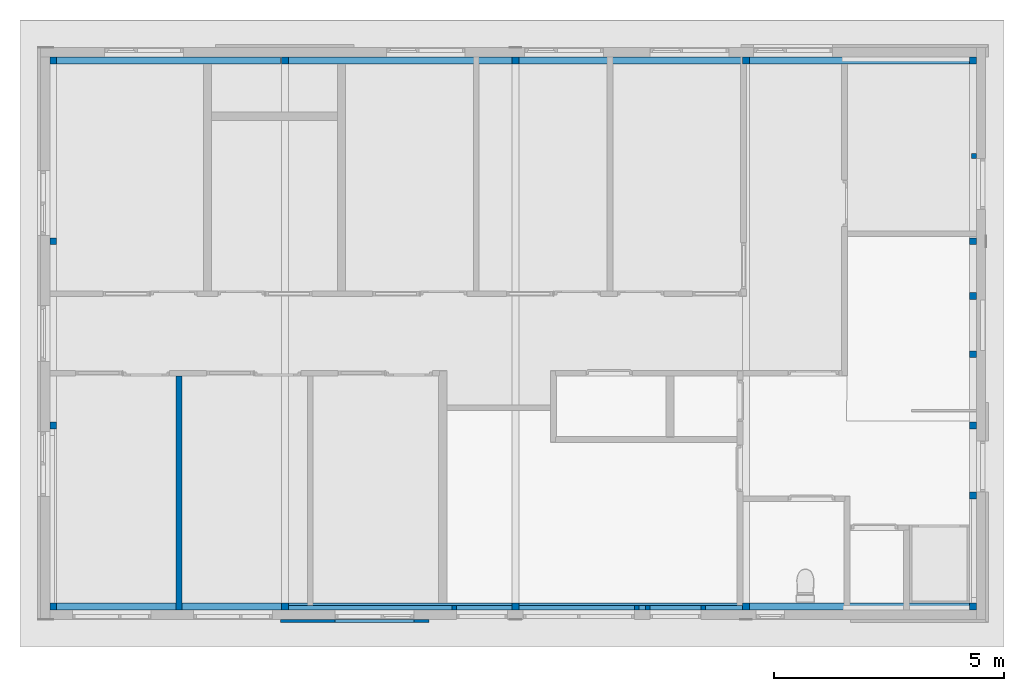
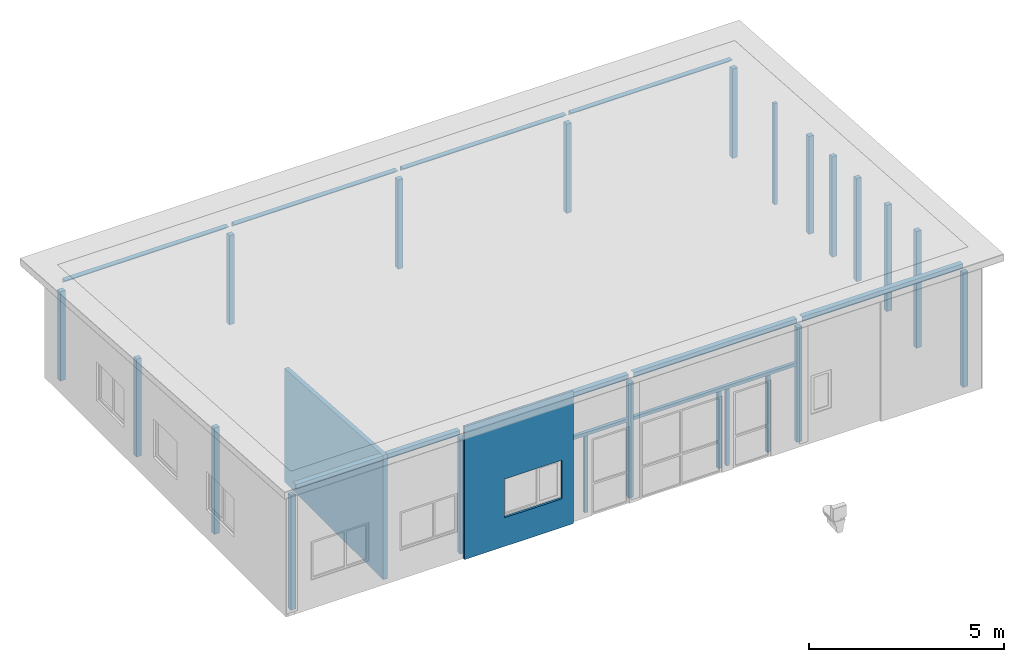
# One storey, part 1 of 37: 22 columns, 10 beams, 2 walls, 1 opening.
"""IFC2X3 building model written with IfcOpenShell, lengths in millimetres."""

from ifc_helpers import new_model, entity, si_unit, converted_unit, frame, frame_2d, origin, origin_with_axes, place, context, subcontext, project, spatial, rectangle, extrude, clip, halfspace, faceted_brep, material, layer, layer_set, layer_usage, element, save


model = new_model("IFC2X3")

# Units and contexts
model_context = context("Model", 3, precision=1e-05, world=origin())
plan_context = context("Plan", 3, precision=1e-05, world=origin())
body_context = subcontext(model_context, "Body", "Model", "MODEL_VIEW")
ifc_project = project(units=[si_unit("LENGTHUNIT", "METRE", prefix="MILLI"), converted_unit("PLANEANGLEUNIT", "DEGREE", entity("IfcPlaneAngleMeasure", 0.0174532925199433), si_unit("PLANEANGLEUNIT", "RADIAN"), dimensions=[0, 0, 0, 0, 0, 0, 0]), si_unit("AREAUNIT", "SQUARE_METRE"), si_unit("VOLUMEUNIT", "CUBIC_METRE")], contexts=[model_context, plan_context])

# Building, storey
building_placement = place(None, origin())
building = spatial("IfcBuilding", under=ifc_project, at=building_placement, Name="HEKF Administrasjonbygg", CompositionType="ELEMENT")
storey_placement = place(building_placement, frame((0.0, 0.0, 9900.0), z_axis=(0.0, 0.0, 1.0), x_axis=(1.0, 0.0, 0.0)))
storey = spatial("IfcBuildingStorey", under=building, at=storey_placement, Name="Plan 2", CompositionType="ELEMENT", Elevation=9900.0)

# Columns
ifc_material_1 = material(Name="Stål")
column_1_placement = place(storey_placement, frame((22580.0, -12000.0, 0.0), z_axis=(0.0, 0.0, 1.0), x_axis=(1.0, 0.0, 0.0)))
element("IfcColumn", 1, at=column_1_placement, inside=storey, material=ifc_material_1, context=body_context, shape_type="SweptSolid", body=[
    extrude(rectangle(XDim=100.0, YDim=100.0, at=frame_2d((50.0, 50.0), x_axis=(1.0, 0.0))), origin_with_axes(), (0.0, 0.0, 1.0), 2410.0),
])
ifc_material_2 = material(Name="Stål")
column_2_placement = place(storey_placement, frame((22820.0, -12000.0, 0.0), z_axis=(0.0, 0.0, 1.0), x_axis=(1.0, 0.0, 0.0)))
element("IfcColumn", 2, at=column_2_placement, inside=storey, material=ifc_material_2, context=body_context, shape_type="SweptSolid", body=[
    extrude(rectangle(XDim=100.0, YDim=100.0, at=frame_2d((50.0, 50.0), x_axis=(1.0, 0.0))), origin_with_axes(), (0.0, 0.0, 1.0), 2410.0),
])
ifc_material_3 = material(Name="Stål")
column_3_placement = place(storey_placement, frame((24030.0, -12000.0, 0.0), z_axis=(0.0, 0.0, 1.0), x_axis=(1.0, 0.0, 0.0)))
element("IfcColumn", 3, at=column_3_placement, inside=storey, material=ifc_material_3, context=body_context, shape_type="SweptSolid", body=[
    extrude(rectangle(XDim=100.0, YDim=100.0, at=frame_2d((50.0, 50.0), x_axis=(1.0, 0.0))), origin_with_axes(), (0.0, 0.0, 1.0), 2410.0),
])
ifc_material_4 = material(Name="Stål")
column_4_placement = place(storey_placement, frame((18620.0, -12000.0, 0.0), z_axis=(0.0, 0.0, 1.0), x_axis=(1.0, 0.0, 0.0)))
element("IfcColumn", 4, at=column_4_placement, inside=storey, material=ifc_material_4, context=body_context, shape_type="SweptSolid", body=[
    extrude(rectangle(XDim=100.0, YDim=100.0, at=frame_2d((50.0, 50.0), x_axis=(1.0, 0.0))), origin_with_axes(), (0.0, 0.0, 1.0), 2410.0),
])
ifc_material_5 = material(Name="Stål")
column_5_placement = place(storey_placement, frame((29850.0, -6526.053432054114, 0.0), z_axis=(0.0, 0.0, 1.0), x_axis=(1.0, 0.0, 0.0)))
element("IfcColumn", 5, at=column_5_placement, inside=storey, material=ifc_material_5, context=body_context, shape_type="Clipping", body=[
    clip(extrude(rectangle(XDim=150.0, YDim=150.0, at=frame_2d((75.0, 75.0), x_axis=(1.0, 0.0))), origin_with_axes(), (0.0, 0.0, 1.0), 3234.404301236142), halfspace(frame((0.0, 0.0, 3234.404301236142), z_axis=(0.0, -0.06651901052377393, -0.9977851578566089), x_axis=(1.0, 0.0, 0.0)), True)),
])
ifc_material_6 = material(Name="Stål")
column_6_placement = place(storey_placement, frame((29850.0, -5266.053432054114, 0.0), z_axis=(0.0, 0.0, 1.0), x_axis=(1.0, 0.0, 0.0)))
element("IfcColumn", 6, at=column_6_placement, inside=storey, material=ifc_material_6, context=body_context, shape_type="Clipping", body=[
    clip(extrude(rectangle(XDim=150.0, YDim=150.0, at=frame_2d((75.0, 75.0), x_axis=(1.0, 0.0))), origin_with_axes(), (0.0, 0.0, 1.0), 3150.404301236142), halfspace(frame((0.0, 0.0, 3150.404301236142), z_axis=(0.0, -0.06651901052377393, -0.9977851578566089), x_axis=(1.0, 0.0, 0.0)), True)),
])
ifc_material_7 = material(Name="Stål")
column_7_placement = place(storey_placement, frame((29900.0, -2200.482789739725, -230.0), z_axis=(0.0, 0.0, 1.0), x_axis=(1.0, 0.0, 0.0)))
element("IfcColumn", 7, at=column_7_placement, inside=storey, material=ifc_material_7, context=body_context, shape_type="Clipping", body=[
    clip(extrude(rectangle(XDim=100.0, YDim=100.0, at=frame_2d((50.0, 50.0), x_axis=(1.0, 0.0))), origin_with_axes(), (0.0, 0.0, 1.0), 3176.03292508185), halfspace(frame((0.0, 0.0, 3176.03292508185), z_axis=(0.0, -0.06651901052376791, -0.9977851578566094), x_axis=(1.0, 0.0, 0.0)), True)),
])
ifc_material_8 = material(Name="Stål")
column_8_placement = place(storey_placement, frame((9899.999999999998, -150.0, 0.0), z_axis=(0.0, 0.0, 1.0), x_axis=(1.0, 0.0, 0.0)))
element("IfcColumn", 8, at=column_8_placement, inside=storey, material=ifc_material_8, context=body_context, shape_type="Clipping", body=[
    clip(extrude(rectangle(XDim=150.0, YDim=150.0, at=frame_2d((75.0, 75.0), x_axis=(1.0, 0.0))), origin_with_axes(), (0.0, 0.0, 1.0), 2809.334072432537), halfspace(frame((0.0, 0.0, 2809.334072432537), z_axis=(0.0, -0.06651901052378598, -0.9977851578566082), x_axis=(1.0, 0.0, 0.0)), True)),
])
ifc_material_9 = material(Name="Stål")
column_9_placement = place(storey_placement, frame((14925.0, -150.0, 0.0), z_axis=(0.0, 0.0, 1.0), x_axis=(1.0, 0.0, 0.0)))
element("IfcColumn", 9, at=column_9_placement, inside=storey, material=ifc_material_9, context=body_context, shape_type="SweptSolid", body=[
    extrude(rectangle(XDim=150.0, YDim=150.0, at=frame_2d((75.0, 75.0), x_axis=(1.0, 0.0))), origin_with_axes(), (0.0, 0.0, 1.0), 2800.0),
])
ifc_material_10 = material(Name="Stål")
column_10_placement = place(storey_placement, frame((19925.0, -149.9999999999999, 0.0), z_axis=(0.0, 0.0, 1.0), x_axis=(1.0, 0.0, 0.0)))
element("IfcColumn", 10, at=column_10_placement, inside=storey, material=ifc_material_10, context=body_context, shape_type="SweptSolid", body=[
    extrude(rectangle(XDim=150.0, YDim=150.0, at=frame_2d((75.0, 75.0), x_axis=(1.0, 0.0))), origin_with_axes(), (0.0, 0.0, 1.0), 2800.0),
])
ifc_material_11 = material(Name="Stål")
column_11_placement = place(storey_placement, frame((24925.0, -149.9999999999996, 0.0), z_axis=(0.0, 0.0, 1.0), x_axis=(1.0, 0.0, 0.0)))
element("IfcColumn", 11, at=column_11_placement, inside=storey, material=ifc_material_11, context=body_context, shape_type="SweptSolid", body=[
    extrude(rectangle(XDim=150.0, YDim=150.0, at=frame_2d((75.0, 75.0), x_axis=(1.0, 0.0))), origin_with_axes(), (0.0, 0.0, 1.0), 2800.0),
])
ifc_material_12 = material(Name="Stål")
column_12_placement = place(storey_placement, frame((29850.0, -150.0, 0.0), z_axis=(0.0, 0.0, 1.0), x_axis=(1.0, 0.0, 0.0)))
element("IfcColumn", 12, at=column_12_placement, inside=storey, material=ifc_material_12, context=body_context, shape_type="Clipping", body=[
    clip(extrude(rectangle(XDim=150.0, YDim=150.0, at=frame_2d((75.0, 75.0), x_axis=(1.0, 0.0))), origin_with_axes(), (0.0, 0.0, 1.0), 2809.334072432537), halfspace(frame((0.0, 0.0, 2809.334072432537), z_axis=(0.0, -0.06651901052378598, -0.9977851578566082), x_axis=(1.0, 0.0, 0.0)), True)),
])
ifc_material_13 = material(Name="Stål")
column_13_placement = place(storey_placement, frame((29850.0, -4075.000000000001, 0.0), z_axis=(0.0, 0.0, 1.0), x_axis=(1.0, 0.0, 0.0)))
element("IfcColumn", 13, at=column_13_placement, inside=storey, material=ifc_material_13, context=body_context, shape_type="Clipping", body=[
    clip(extrude(rectangle(XDim=150.0, YDim=150.0, at=frame_2d((75.0, 75.0), x_axis=(1.0, 0.0))), origin_with_axes(), (0.0, 0.0, 1.0), 3071.000739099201), halfspace(frame((0.0, 0.0, 3071.000739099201), z_axis=(0.0, -0.06651901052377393, -0.9977851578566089), x_axis=(1.0, 0.0, 0.0)), True)),
])
ifc_material_14 = material(Name="Stål")
column_14_placement = place(storey_placement, frame((29850.0, -8075.000000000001, 0.0), z_axis=(0.0, 0.0, 1.0), x_axis=(1.0, 0.0, 0.0)))
element("IfcColumn", 14, at=column_14_placement, inside=storey, material=ifc_material_14, context=body_context, shape_type="Clipping", body=[
    clip(extrude(rectangle(XDim=150.0, YDim=150.0, at=frame_2d((75.0, 75.0), x_axis=(1.0, 0.0))), origin_with_axes(), (0.0, 0.0, 1.0), 3337.667405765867), halfspace(frame((0.0, 0.0, 3337.667405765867), z_axis=(0.0, -0.06651901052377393, -0.9977851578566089), x_axis=(1.0, 0.0, 0.0)), True)),
])
ifc_material_15 = material(Name="Stål")
column_15_placement = place(storey_placement, frame((29850.0, -9591.624074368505, -230.0), z_axis=(0.0, 0.0, 1.0), x_axis=(1.0, 0.0, 0.0)))
element("IfcColumn", 15, at=column_15_placement, inside=storey, material=ifc_material_15, context=body_context, shape_type="Clipping", body=[
    clip(extrude(rectangle(XDim=150.0, YDim=150.0, at=frame_2d((75.0, 75.0), x_axis=(1.0, 0.0))), origin_with_axes(), (0.0, 0.0, 1.0), 3668.775677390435), halfspace(frame((0.0, 0.0, 3668.775677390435), z_axis=(0.0, -0.06651901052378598, -0.9977851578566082), x_axis=(1.0, 0.0, 0.0)), True)),
])
ifc_material_16 = material(Name="Stål")
column_16_placement = place(storey_placement, frame((29850.0, -12000.0, 0.0), z_axis=(0.0, 0.0, 1.0), x_axis=(1.0, 0.0, 0.0)))
element("IfcColumn", 16, at=column_16_placement, inside=storey, material=ifc_material_16, context=body_context, shape_type="Clipping", body=[
    clip(extrude(rectangle(XDim=150.0, YDim=150.0, at=frame_2d((75.0, 75.0), x_axis=(1.0, 0.0))), origin_with_axes(), (0.0, 0.0, 1.0), 3599.334072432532), halfspace(frame((0.0, 0.0, 3599.334072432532), z_axis=(0.0, -0.06651901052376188, -0.9977851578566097), x_axis=(1.0, 0.0, 0.0)), True)),
])
ifc_material_17 = material(Name="Stål")
column_17_placement = place(storey_placement, frame((24925.0, -11999.99999999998, 0.0), z_axis=(0.0, 0.0, 1.0), x_axis=(1.0, 0.0, 0.0)))
element("IfcColumn", 17, at=column_17_placement, inside=storey, material=ifc_material_17, context=body_context, shape_type="SweptSolid", body=[
    extrude(rectangle(XDim=150.0, YDim=150.0, at=frame_2d((75.0, 75.0), x_axis=(1.0, 0.0))), origin_with_axes(), (0.0, 0.0, 1.0), 3600.0),
])
ifc_material_18 = material(Name="Stål")
column_18_placement = place(storey_placement, frame((19925.0, -11999.99999999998, 0.0), z_axis=(0.0, 0.0, 1.0), x_axis=(1.0, 0.0, 0.0)))
element("IfcColumn", 18, at=column_18_placement, inside=storey, material=ifc_material_18, context=body_context, shape_type="SweptSolid", body=[
    extrude(rectangle(XDim=150.0, YDim=150.0, at=frame_2d((75.0, 75.0), x_axis=(1.0, 0.0))), origin_with_axes(), (0.0, 0.0, 1.0), 3600.0),
])
ifc_material_19 = material(Name="Stål")
column_19_placement = place(storey_placement, frame((14925.0, -11999.99999999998, 0.0), z_axis=(0.0, 0.0, 1.0), x_axis=(1.0, 0.0, 0.0)))
element("IfcColumn", 19, at=column_19_placement, inside=storey, material=ifc_material_19, context=body_context, shape_type="SweptSolid", body=[
    extrude(rectangle(XDim=150.0, YDim=150.0, at=frame_2d((75.0, 75.0), x_axis=(1.0, 0.0))), origin_with_axes(), (0.0, 0.0, 1.0), 3600.0),
])
ifc_material_20 = material(Name="Stål")
column_20_placement = place(storey_placement, frame((9899.999999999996, -11999.99999999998, 0.0), z_axis=(0.0, 0.0, 1.0), x_axis=(1.0, 0.0, 0.0)))
element("IfcColumn", 20, at=column_20_placement, inside=storey, material=ifc_material_20, context=body_context, shape_type="Clipping", body=[
    clip(extrude(rectangle(XDim=150.0, YDim=150.0, at=frame_2d((75.0, 75.0), x_axis=(1.0, 0.0))), origin_with_axes(), (0.0, 0.0, 1.0), 3599.334072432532), halfspace(frame((0.0, 0.0, 3599.334072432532), z_axis=(0.0, -0.06651901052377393, -0.9977851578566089), x_axis=(1.0, 0.0, 0.0)), True)),
])
ifc_material_21 = material(Name="Stål")
column_21_placement = place(storey_placement, frame((9899.999999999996, -8075.000000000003, 0.0), z_axis=(0.0, 0.0, 1.0), x_axis=(1.0, 0.0, 0.0)))
element("IfcColumn", 21, at=column_21_placement, inside=storey, material=ifc_material_21, context=body_context, shape_type="Clipping", body=[
    clip(extrude(rectangle(XDim=150.0, YDim=150.0, at=frame_2d((75.0, 75.0), x_axis=(1.0, 0.0))), origin_with_axes(), (0.0, 0.0, 1.0), 3337.667405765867), halfspace(frame((0.0, 0.0, 3337.667405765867), z_axis=(0.0, -0.06651901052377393, -0.9977851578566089), x_axis=(1.0, 0.0, 0.0)), True)),
])
ifc_material_22 = material(Name="Stål")
column_22_placement = place(storey_placement, frame((9899.999999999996, -4075.000000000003, 0.0), z_axis=(0.0, 0.0, 1.0), x_axis=(1.0, 0.0, 0.0)))
element("IfcColumn", 22, at=column_22_placement, inside=storey, material=ifc_material_22, context=body_context, shape_type="Clipping", body=[
    clip(extrude(rectangle(XDim=150.0, YDim=150.0, at=frame_2d((75.0, 75.0), x_axis=(1.0, 0.0))), origin_with_axes(), (0.0, 0.0, 1.0), 3071.000739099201), halfspace(frame((0.0, 0.0, 3071.000739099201), z_axis=(0.0, -0.06651901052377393, -0.9977851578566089), x_axis=(1.0, 0.0, 0.0)), True)),
])

# Beams
ifc_material_23 = material(Name="Betong i drager")
beam_1_placement = place(storey_placement, frame((20075.0, -11999.99999999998, 3739.667036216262), z_axis=(0.0, 0.0, 1.0), x_axis=(1.0, 0.0, 0.0)))
element("IfcBeam", 23, at=beam_1_placement, inside=storey, material=ifc_material_23, context=body_context, shape_type="Brep", body=[
    faceted_brep([(4850.0, 0.0, 150.3329637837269), (4850.0, 0.0, 10.0), (0.0, 0.0, 10.0), (0.0, 0.0, 150.3329637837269), (4850.0, 150.0, 150.3329637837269), (4850.0, 150.0, 139.1063266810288), (4850.0, 12.0, 139.1063266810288), (4850.0, 12.0, 10.0), (4850.0, 0.0, 10.0), (4850.0, 0.0, 150.3329637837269), (0.0, 150.0, 150.3329637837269), (-3.637978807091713e-12, 150.0000000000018, 139.1063266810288), (4850.0, 150.0, 139.1063266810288), (4850.0, 150.0, 150.3329637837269), (0.0, 0.0, 150.3329637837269), (0.0, 0.0, 10.0), (0.0, 12.0, 10.0), (0.0, 12.0, 139.1063266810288), (-3.637978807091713e-12, 150.0000000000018, 139.1063266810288), (0.0, 150.0, 150.3329637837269), (4850.0, 150.0, 150.3329637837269), (4850.0, 0.0, 150.3329637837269), (0.0, 0.0, 150.3329637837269), (0.0, 150.0, 150.3329637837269), (4850.0, 0.0, 10.0), (4850.0, 12.0, 10.0), (0.0, 12.0, 10.0), (0.0, 0.0, 10.0), (4850.0, 12.0, 10.0), (4850.0, 12.0, 139.1063266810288), (0.0, 12.0, 139.1063266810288), (0.0, 12.0, 10.0), (4850.0, 12.0, 139.1063266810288), (4850.0, 150.0, 139.1063266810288), (-3.637978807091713e-12, 150.0000000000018, 139.1063266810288), (0.0, 12.0, 139.1063266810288)], [[[0, 1, 2, 3]], [[4, 5, 6, 7, 8, 9]], [[10, 11, 12, 13]], [[14, 15, 16, 17, 18, 19]], [[20, 21, 22, 23]], [[24, 25, 26, 27]], [[28, 29, 30, 31]], [[32, 33, 34, 35]]], orient=[[False], [False], [False], [False], [False], [False], [False], [False]]),
])
ifc_material_24 = material(Name="Betong i drager")
beam_2_placement = place(storey_placement, frame((15075.00000000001, -11999.99999999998, 3739.667036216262), z_axis=(0.0, 0.0, 1.0), x_axis=(1.0, 0.0, 0.0)))
element("IfcBeam", 24, at=beam_2_placement, inside=storey, material=ifc_material_24, context=body_context, shape_type="Brep", body=[
    faceted_brep([(4849.999999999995, 0.0, 150.3329637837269), (4849.999999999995, 0.0, 10.0), (0.0, 0.0, 10.0), (0.0, 0.0, 150.3329637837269), (4849.999999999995, 150.0, 150.3329637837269), (4849.999999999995, 150.0, 139.1063266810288), (4849.999999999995, 12.0, 139.1063266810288), (4849.999999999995, 12.0, 10.0), (4849.999999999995, 0.0, 10.0), (4849.999999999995, 0.0, 150.3329637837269), (0.0, 150.0, 150.3329637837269), (0.0, 150.0000000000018, 139.1063266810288), (4849.999999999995, 150.0, 139.1063266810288), (4849.999999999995, 150.0, 150.3329637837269), (0.0, 0.0, 150.3329637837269), (0.0, 0.0, 10.0), (0.0, 12.0, 10.0), (0.0, 12.0, 139.1063266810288), (0.0, 150.0000000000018, 139.1063266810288), (0.0, 150.0, 150.3329637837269), (4849.999999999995, 150.0, 150.3329637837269), (4849.999999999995, 0.0, 150.3329637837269), (0.0, 0.0, 150.3329637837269), (0.0, 150.0, 150.3329637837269), (4849.999999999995, 0.0, 10.0), (4849.999999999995, 12.0, 10.0), (0.0, 12.0, 10.0), (0.0, 0.0, 10.0), (4849.999999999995, 12.0, 10.0), (4849.999999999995, 12.0, 139.1063266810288), (0.0, 12.0, 139.1063266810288), (0.0, 12.0, 10.0), (4849.999999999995, 12.0, 139.1063266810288), (4849.999999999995, 150.0, 139.1063266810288), (0.0, 150.0000000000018, 139.1063266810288), (0.0, 12.0, 139.1063266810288)], [[[0, 1, 2, 3]], [[4, 5, 6, 7, 8, 9]], [[10, 11, 12, 13]], [[14, 15, 16, 17, 18, 19]], [[20, 21, 22, 23]], [[24, 25, 26, 27]], [[28, 29, 30, 31]], [[32, 33, 34, 35]]], orient=[[False], [False], [False], [False], [False], [False], [False], [False]]),
])
ifc_material_25 = material(Name="Betong i drager")
beam_3_placement = place(storey_placement, frame((10050.0, -11999.99999999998, 3739.667036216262), z_axis=(0.0, 0.0, 1.0), x_axis=(1.0, 0.0, 0.0)))
element("IfcBeam", 25, at=beam_3_placement, inside=storey, material=ifc_material_25, context=body_context, shape_type="Brep", body=[
    faceted_brep([(4875.000000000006, 0.0, 150.3329637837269), (4875.000000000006, 0.0, 10.0), (0.0, 0.0, 10.0), (0.0, 0.0, 150.3329637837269), (4875.000000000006, 150.0, 150.3329637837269), (4875.000000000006, 150.0, 139.1063266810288), (4875.000000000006, 12.0, 139.1063266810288), (4875.000000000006, 12.0, 10.0), (4875.000000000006, 0.0, 10.0), (4875.000000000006, 0.0, 150.3329637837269), (0.0, 150.0, 150.3329637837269), (0.0, 150.0000000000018, 139.1063266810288), (4875.000000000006, 150.0, 139.1063266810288), (4875.000000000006, 150.0, 150.3329637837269), (0.0, 0.0, 150.3329637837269), (0.0, 0.0, 10.0), (0.0, 12.0, 10.0), (0.0, 12.0, 139.1063266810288), (0.0, 150.0000000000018, 139.1063266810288), (0.0, 150.0, 150.3329637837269), (4875.000000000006, 150.0, 150.3329637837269), (4875.000000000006, 0.0, 150.3329637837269), (0.0, 0.0, 150.3329637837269), (0.0, 150.0, 150.3329637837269), (4875.000000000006, 0.0, 10.0), (4875.000000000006, 12.0, 10.0), (0.0, 12.0, 10.0), (0.0, 0.0, 10.0), (4875.000000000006, 12.0, 10.0), (4875.000000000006, 12.0, 139.1063266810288), (0.0, 12.0, 139.1063266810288), (0.0, 12.0, 10.0), (4875.000000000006, 12.0, 139.1063266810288), (4875.000000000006, 150.0, 139.1063266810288), (0.0, 150.0000000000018, 139.1063266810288), (0.0, 12.0, 139.1063266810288)], [[[0, 1, 2, 3]], [[4, 5, 6, 7, 8, 9]], [[10, 11, 12, 13]], [[14, 15, 16, 17, 18, 19]], [[20, 21, 22, 23]], [[24, 25, 26, 27]], [[28, 29, 30, 31]], [[32, 33, 34, 35]]], orient=[[False], [False], [False], [False], [False], [False], [False], [False]]),
])
ifc_material_26 = material(Name="Betong i drager")
beam_4_placement = place(storey_placement, frame((14900.0, 3.552713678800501e-13, 2949.667036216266), z_axis=(0.0, 0.0, 1.0), x_axis=(-1.0, -2.553512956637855e-17, 0.0)))
element("IfcBeam", 26, at=beam_4_placement, inside=storey, material=ifc_material_26, context=body_context, shape_type="Brep", body=[
    faceted_brep([(4850.000000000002, 0.0, 150.3329637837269), (4850.000000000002, 0.0, 10.0), (0.0, 0.0, 10.0), (0.0, 0.0, 150.3329637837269), (4850.000000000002, 150.0, 150.3329637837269), (4850.000000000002, 150.0, 139.106326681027), (4850.000000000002, 12.0, 139.1063266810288), (4850.000000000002, 12.00000000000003, 10.0), (4850.000000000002, 0.0, 10.0), (4850.000000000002, 0.0, 150.3329637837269), (0.0, 150.0, 150.3329637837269), (0.0, 150.0, 139.1063266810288), (4850.000000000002, 150.0, 139.106326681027), (4850.000000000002, 150.0, 150.3329637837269), (0.0, 0.0, 150.3329637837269), (0.0, 0.0, 10.0), (-1.818989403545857e-12, 12.00000000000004, 10.0), (-1.818989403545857e-12, 12.00000000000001, 139.1063266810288), (0.0, 150.0, 139.1063266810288), (0.0, 150.0, 150.3329637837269), (4850.000000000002, 150.0, 150.3329637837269), (4850.000000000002, 0.0, 150.3329637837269), (0.0, 0.0, 150.3329637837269), (0.0, 150.0, 150.3329637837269), (4850.000000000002, 0.0, 10.0), (4850.000000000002, 12.00000000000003, 10.0), (-1.818989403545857e-12, 12.00000000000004, 10.0), (0.0, 0.0, 10.0), (4850.000000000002, 12.00000000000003, 10.0), (4850.000000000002, 12.0, 139.1063266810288), (-1.818989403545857e-12, 12.00000000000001, 139.1063266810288), (-1.818989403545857e-12, 12.00000000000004, 10.0), (4850.000000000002, 12.0, 139.1063266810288), (4850.000000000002, 150.0, 139.106326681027), (0.0, 150.0, 139.1063266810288), (-1.818989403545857e-12, 12.00000000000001, 139.1063266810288)], [[[0, 1, 2, 3]], [[4, 5, 6, 7, 8, 9]], [[10, 11, 12, 13]], [[14, 15, 16, 17, 18, 19]], [[20, 21, 22, 23]], [[24, 25, 26, 27]], [[28, 29, 30, 31]], [[32, 33, 34, 35]]], orient=[[False], [False], [False], [False], [False], [False], [False], [False]]),
])
ifc_material_27 = material(Name="Betong i drager")
beam_5_placement = place(storey_placement, frame((19925.0, 9.947598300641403e-14, 2949.667036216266), z_axis=(0.0, 0.0, 1.0), x_axis=(-1.0, -2.051051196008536e-17, 0.0)))
element("IfcBeam", 27, at=beam_5_placement, inside=storey, material=ifc_material_27, context=body_context, shape_type="Brep", body=[
    faceted_brep([(4850.000000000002, 0.0, 150.3329637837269), (4850.000000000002, 0.0, 10.0), (0.0, 0.0, 10.0), (0.0, 0.0, 150.3329637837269), (4850.000000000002, 150.0, 150.3329637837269), (4850.000000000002, 150.0, 139.106326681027), (4850.000000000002, 12.0, 139.1063266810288), (4850.000000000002, 12.00000000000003, 10.0), (4850.000000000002, 0.0, 10.0), (4850.000000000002, 0.0, 150.3329637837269), (0.0, 150.0, 150.3329637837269), (0.0, 150.0, 139.1063266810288), (4850.000000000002, 150.0, 139.106326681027), (4850.000000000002, 150.0, 150.3329637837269), (0.0, 0.0, 150.3329637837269), (0.0, 0.0, 10.0), (0.0, 12.00000000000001, 10.0), (0.0, 11.99999999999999, 139.1063266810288), (0.0, 150.0, 139.1063266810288), (0.0, 150.0, 150.3329637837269), (4850.000000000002, 150.0, 150.3329637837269), (4850.000000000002, 0.0, 150.3329637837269), (0.0, 0.0, 150.3329637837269), (0.0, 150.0, 150.3329637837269), (4850.000000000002, 0.0, 10.0), (4850.000000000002, 12.00000000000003, 10.0), (0.0, 12.00000000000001, 10.0), (0.0, 0.0, 10.0), (4850.000000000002, 12.00000000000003, 10.0), (4850.000000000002, 12.0, 139.1063266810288), (0.0, 11.99999999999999, 139.1063266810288), (0.0, 12.00000000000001, 10.0), (4850.000000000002, 12.0, 139.1063266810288), (4850.000000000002, 150.0, 139.106326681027), (0.0, 150.0, 139.1063266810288), (0.0, 11.99999999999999, 139.1063266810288)], [[[0, 1, 2, 3]], [[4, 5, 6, 7, 8, 9]], [[10, 11, 12, 13]], [[14, 15, 16, 17, 18, 19]], [[20, 21, 22, 23]], [[24, 25, 26, 27]], [[28, 29, 30, 31]], [[32, 33, 34, 35]]], orient=[[False], [False], [False], [False], [False], [False], [False], [False]]),
])
ifc_material_28 = material(Name="Betong i drager")
beam_6_placement = place(storey_placement, frame((24925.0, 4.547473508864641e-13, 2949.667036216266), z_axis=(0.0, 0.0, 1.0), x_axis=(-1.0, 0.0, 0.0)))
element("IfcBeam", 28, at=beam_6_placement, inside=storey, material=ifc_material_28, context=body_context, shape_type="Brep", body=[
    faceted_brep([(4850.0, 0.0, 150.3329637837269), (4850.0, 0.0, 10.0), (0.0, 0.0, 10.0), (0.0, 0.0, 150.3329637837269), (4850.0, 150.0, 150.3329637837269), (4850.000000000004, 150.0, 139.106326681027), (4850.0, 12.0, 139.1063266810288), (4850.0, 12.00000000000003, 10.0), (4850.0, 0.0, 10.0), (4850.0, 0.0, 150.3329637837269), (0.0, 150.0, 150.3329637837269), (0.0, 150.0, 139.1063266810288), (4850.000000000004, 150.0, 139.106326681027), (4850.0, 150.0, 150.3329637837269), (0.0, 0.0, 150.3329637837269), (0.0, 0.0, 10.0), (0.0, 12.00000000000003, 10.0), (0.0, 12.0, 139.1063266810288), (0.0, 150.0, 139.1063266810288), (0.0, 150.0, 150.3329637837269), (4850.0, 150.0, 150.3329637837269), (4850.0, 0.0, 150.3329637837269), (0.0, 0.0, 150.3329637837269), (0.0, 150.0, 150.3329637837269), (4850.0, 0.0, 10.0), (4850.0, 12.00000000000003, 10.0), (0.0, 12.00000000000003, 10.0), (0.0, 0.0, 10.0), (4850.0, 12.00000000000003, 10.0), (4850.0, 12.0, 139.1063266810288), (0.0, 12.0, 139.1063266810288), (0.0, 12.00000000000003, 10.0), (4850.0, 12.0, 139.1063266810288), (4850.000000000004, 150.0, 139.106326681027), (0.0, 150.0, 139.1063266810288), (0.0, 12.0, 139.1063266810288)], [[[0, 1, 2, 3]], [[4, 5, 6, 7, 8, 9]], [[10, 11, 12, 13]], [[14, 15, 16, 17, 18, 19]], [[20, 21, 22, 23]], [[24, 25, 26, 27]], [[28, 29, 30, 31]], [[32, 33, 34, 35]]], orient=[[False], [False], [False], [False], [False], [False], [False], [False]]),
])
ifc_material_29 = material(Name="Betong i drager")
beam_7_placement = place(storey_placement, frame((29850.0, -4.547473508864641e-13, 2949.667036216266), z_axis=(0.0, 0.0, 1.0), x_axis=(-1.0, 9.523504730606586e-17, 0.0)))
element("IfcBeam", 29, at=beam_7_placement, inside=storey, material=ifc_material_29, context=body_context, shape_type="Brep", body=[
    faceted_brep([(4774.999999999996, 0.0, 150.3329637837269), (4774.999999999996, 0.0, 10.0), (0.0, 0.0, 10.0), (0.0, 0.0, 150.3329637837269), (4774.999999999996, 150.0, 150.3329637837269), (4775.0, 150.0, 139.106326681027), (4774.999999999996, 12.0, 139.1063266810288), (4774.999999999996, 12.00000000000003, 10.0), (4774.999999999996, 0.0, 10.0), (4774.999999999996, 0.0, 150.3329637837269), (0.0, 150.0, 150.3329637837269), (0.0, 150.0, 139.1063266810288), (4775.0, 150.0, 139.106326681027), (4774.999999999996, 150.0, 150.3329637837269), (0.0, 0.0, 150.3329637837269), (0.0, 0.0, 10.0), (0.0, 12.00000000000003, 10.0), (0.0, 12.0, 139.1063266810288), (0.0, 150.0, 139.1063266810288), (0.0, 150.0, 150.3329637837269), (4774.999999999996, 150.0, 150.3329637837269), (4774.999999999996, 0.0, 150.3329637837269), (0.0, 0.0, 150.3329637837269), (0.0, 150.0, 150.3329637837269), (4774.999999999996, 0.0, 10.0), (4774.999999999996, 12.00000000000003, 10.0), (0.0, 12.00000000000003, 10.0), (0.0, 0.0, 10.0), (4774.999999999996, 12.00000000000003, 10.0), (4774.999999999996, 12.0, 139.1063266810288), (0.0, 12.0, 139.1063266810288), (0.0, 12.00000000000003, 10.0), (4774.999999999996, 12.0, 139.1063266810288), (4775.0, 150.0, 139.106326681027), (0.0, 150.0, 139.1063266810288), (0.0, 12.0, 139.1063266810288)], [[[0, 1, 2, 3]], [[4, 5, 6, 7, 8, 9]], [[10, 11, 12, 13]], [[14, 15, 16, 17, 18, 19]], [[20, 21, 22, 23]], [[24, 25, 26, 27]], [[28, 29, 30, 31]], [[32, 33, 34, 35]]], orient=[[False], [False], [False], [False], [False], [False], [False], [False]]),
])
ifc_material_30 = material(Name="Betong i drager")
beam_8_placement = place(storey_placement, frame((25075.0, -12000.0, 3739.667036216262), z_axis=(0.0, 0.0, 1.0), x_axis=(1.0, 0.0, 0.0)))
element("IfcBeam", 30, at=beam_8_placement, inside=storey, material=ifc_material_30, context=body_context, shape_type="Brep", body=[
    faceted_brep([(4775.0, 0.0, 150.3329637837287), (4775.0, 0.0, 10.00000000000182), (0.0, 0.0, 10.00000000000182), (0.0, 0.0, 150.3329637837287), (4775.0, 150.0, 150.3329637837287), (4775.0, 150.0, 139.1063266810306), (4775.0, 12.0, 139.1063266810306), (4775.0, 12.0, 10.00000000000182), (4775.0, 0.0, 10.00000000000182), (4775.0, 0.0, 150.3329637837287), (0.0, 150.0, 150.3329637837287), (-3.637978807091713e-12, 150.0000000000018, 139.1063266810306), (4775.0, 150.0, 139.1063266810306), (4775.0, 150.0, 150.3329637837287), (0.0, 0.0, 150.3329637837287), (0.0, 0.0, 10.00000000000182), (0.0, 12.0, 10.00000000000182), (0.0, 12.0, 139.1063266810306), (-3.637978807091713e-12, 150.0000000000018, 139.1063266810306), (0.0, 150.0, 150.3329637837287), (4775.0, 150.0, 150.3329637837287), (4775.0, 0.0, 150.3329637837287), (0.0, 0.0, 150.3329637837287), (0.0, 150.0, 150.3329637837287), (4775.0, 0.0, 10.00000000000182), (4775.0, 12.0, 10.00000000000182), (0.0, 12.0, 10.00000000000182), (0.0, 0.0, 10.00000000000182), (4775.0, 12.0, 10.00000000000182), (4775.0, 12.0, 139.1063266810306), (0.0, 12.0, 139.1063266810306), (0.0, 12.0, 10.00000000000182), (4775.0, 12.0, 139.1063266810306), (4775.0, 150.0, 139.1063266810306), (-3.637978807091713e-12, 150.0000000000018, 139.1063266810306), (0.0, 12.0, 139.1063266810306)], [[[0, 1, 2, 3]], [[4, 5, 6, 7, 8, 9]], [[10, 11, 12, 13]], [[14, 15, 16, 17, 18, 19]], [[20, 21, 22, 23]], [[24, 25, 26, 27]], [[28, 29, 30, 31]], [[32, 33, 34, 35]]], orient=[[False], [False], [False], [False], [False], [False], [False], [False]]),
])
ifc_material_31 = material(Name="Betong i drager")
beam_9_placement = place(storey_placement, frame((20075.0, -11999.99999999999, 2410.0), z_axis=(0.0, 0.0, 1.0), x_axis=(1.0, 0.0, 0.0)))
element("IfcBeam", 31, at=beam_9_placement, inside=storey, material=ifc_material_31, context=body_context, shape_type="SweptSolid", body=[
    extrude(rectangle(XDim=100.0, YDim=100.0, at=frame_2d((50.0, -50.0), x_axis=(1.0, 0.0))), frame((0.0, 0.0, 0.0), z_axis=(1.0, 0.0, 0.0), x_axis=(0.0, 0.0, 1.0)), (0.0, 0.0, 1.0), 4850.0),
])
ifc_material_32 = material(Name="Betong i drager")
beam_10_placement = place(storey_placement, frame((15075.0, -11999.99999999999, 2410.0), z_axis=(0.0, 0.0, 1.0), x_axis=(1.0, 0.0, 0.0)))
element("IfcBeam", 32, at=beam_10_placement, inside=storey, material=ifc_material_32, context=body_context, shape_type="SweptSolid", body=[
    extrude(rectangle(XDim=100.0, YDim=100.0, at=frame_2d((50.0, -50.0), x_axis=(1.0, 0.0))), frame((0.0, 0.0, 0.0), z_axis=(1.0, 0.0, 0.0), x_axis=(0.0, 0.0, 1.0)), (0.0, 0.0, 1.0), 4850.0),
])

# Wall, opening
ifc_material_33 = material(Name="Lekter")
ifc_layer_1 = layer(ifc_material_33, 46.0)
ifc_material_34 = material(Name="Kledning")
ifc_layer_2 = layer(ifc_material_34, 19.0)
ifc_layer_set_1 = layer_set([ifc_layer_1, ifc_layer_2])
ifc_layer_usage_1 = layer_usage(ifc_layer_set_1, "AXIS2", "POSITIVE", 0.0)
wall_1_placement = place(storey_placement, frame((18130.0, -12200.0, 0.0), z_axis=(0.0, 0.0, 1.0), x_axis=(-1.0, 0.0, 0.0)))
wall_1 = element("IfcWallStandardCase", 33, at=wall_1_placement, inside=storey, material=ifc_layer_usage_1, context=body_context, shape_type="Clipping", body=[
    clip(extrude(rectangle(XDim=3230.000000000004, YDim=65.0, at=frame_2d((1615.000000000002, 32.5), x_axis=(1.0, 0.0))), origin_with_axes(), (0.0, 0.0, 1.0), 4167.666666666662), halfspace(frame((0.0, 0.0, 4163.33333333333), z_axis=(0.0, 0.0665190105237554, -0.9977851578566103), x_axis=(1.0, 0.0, 0.0)), True)),
])
opening_placement = place(wall_1_placement, frame((330.0, 0.0, 900.0), z_axis=(0.0, 1.0, 0.0), x_axis=(0.0, 0.0, 1.0)))
element("IfcOpeningElement", 34, at=opening_placement, cuts=wall_1, Name="Window opening", ObjectType="Opening", context=body_context, shape_type="SweptSolid", body=[
    extrude(rectangle(XDim=1210.0, YDim=1709.999999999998, at=frame_2d((605.0, 854.9999999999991), x_axis=(1.0, 0.0))), origin_with_axes(), (0.0, 0.0, 1.0), 65.0),
])

# Wall
ifc_material_35 = material(Name="gips")
ifc_layer_3 = layer(ifc_material_35, 13.0)
ifc_material_36 = material(Name="riegel stål 100")
ifc_layer_4 = layer(ifc_material_36, 100.0)
ifc_material_37 = material(Name="gips")
ifc_layer_5 = layer(ifc_material_37, 13.0)
ifc_layer_set_2 = layer_set([ifc_layer_3, ifc_layer_4, ifc_layer_5])
ifc_layer_usage_2 = layer_usage(ifc_layer_set_2, "AXIS2", "POSITIVE", 0.0)
wall_2_placement = place(storey_placement, frame((12762.99999999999, -12000.0, 0.0), z_axis=(0.0, 0.0, 1.0), x_axis=(0.0, 1.0, 0.0)))
element("IfcWallStandardCase", 35, at=wall_2_placement, inside=storey, material=ifc_layer_usage_2, context=body_context, shape_type="Clipping", body=[
    clip(extrude(rectangle(XDim=5075.000000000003, YDim=126.0, at=frame_2d((2537.500000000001, 63.0), x_axis=(1.0, 0.0))), origin_with_axes(), (0.0, 0.0, 1.0), 3899.999999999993), halfspace(frame((0.0, 0.0, 3899.999999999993), z_axis=(-0.06651901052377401, -9.08260851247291e-17, -0.997785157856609), x_axis=(0.997785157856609, 0.0, -0.06651901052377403)), True)),
])

save(model, "model.ifc")
